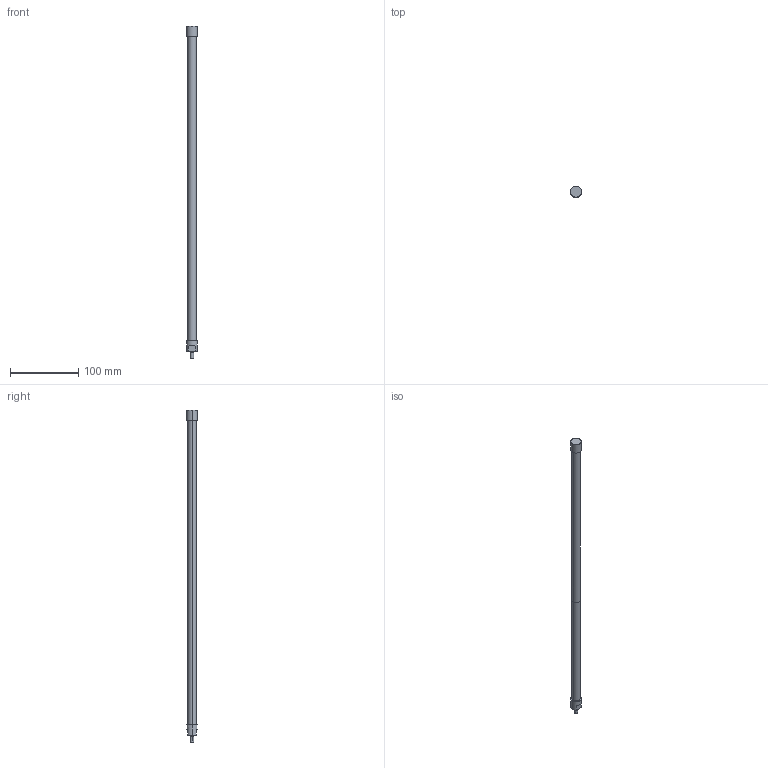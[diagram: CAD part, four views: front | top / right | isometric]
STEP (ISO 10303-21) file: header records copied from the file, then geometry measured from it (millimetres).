
FILE_DESCRIPTION(('STEP AP214'),'1');
FILE_NAME('ETT-R025M485.stp','2015-02-04T08:11:28',(' '),(' '),'Spatial InterOp 3D',' ',' ');
FILE_SCHEMA(('automotive_design'));
Length unit declared in the file: metre
Products named in the file (2): 1; 2
Bounding box: 16 x 16 x 486 mm (x, y, z)
Volume: 39711.7 mm3; surface area: 25423.5 mm2
Topology: 1 solids, 5 shells, 24 faces, 56 edges, 42 vertices
Faces by surface type: cylinder 12, plane 12
Entity records: 952 total; most frequent: DIRECTION 142, CARTESIAN_POINT 124, ORIENTED_EDGE 100, AXIS2_PLACEMENT_3D 60, EDGE_CURVE 56, VERTEX_POINT 42, CIRCLE 34, EDGE_LOOP 28
